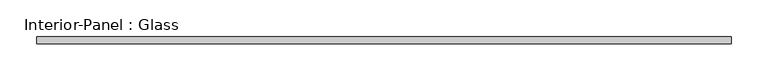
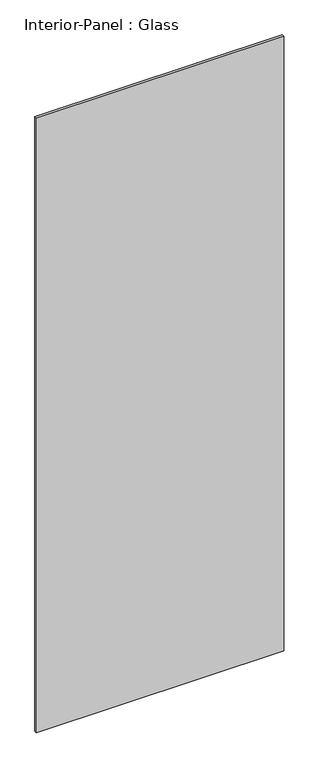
"""IFC4 building model written with IfcOpenShell, lengths in millimetres: plate geometry, Interior-Panel : Glass."""

from ifc_helpers import new_model, si_unit, origin, origin_with_axes, place, context, project, spatial, polyline, outline, extrude, source, transform, mapped, element, save


def interior_panel_glass_2ea66a61(model_context):
    return source(origin(), model_context, "Body", "SweptSolid", [
        extrude(outline(polyline([(475.9900021, 50.0), (475.9900021, 40.0), (-475.9900021, 40.0), (-475.9900021, 50.0), (475.9900021, 50.0)])), origin_with_axes(), (0.0, 0.0, 1.0), 2500.0),
    ])


if __name__ == "__main__":
    model = new_model("IFC4")
    model_context = context("Model", 3, world=origin())
    ifc_project = project(units=[si_unit("LENGTHUNIT", "METRE", prefix="MILLI")], contexts=[model_context])
    site = spatial("IfcSite", under=ifc_project)
    building = spatial("IfcBuilding", under=site)
    placement = place(None, origin())
    interior_panel_glass_shape = interior_panel_glass_2ea66a61(model_context)
    element("IfcPlate", 1, ObjectType="Interior-Panel : Glass", at=placement, inside=building, context=model_context, shape_type="MappedRepresentation", body=[
        mapped(interior_panel_glass_shape, transform((0.0, 0.0, 0.0), x_axis=(1.0, 0.0, 0.0), y_axis=(0.0, 1.0, 0.0), z_axis=(0.0, 0.0, 1.0))),
    ])
    save(model, "model.ifc")
